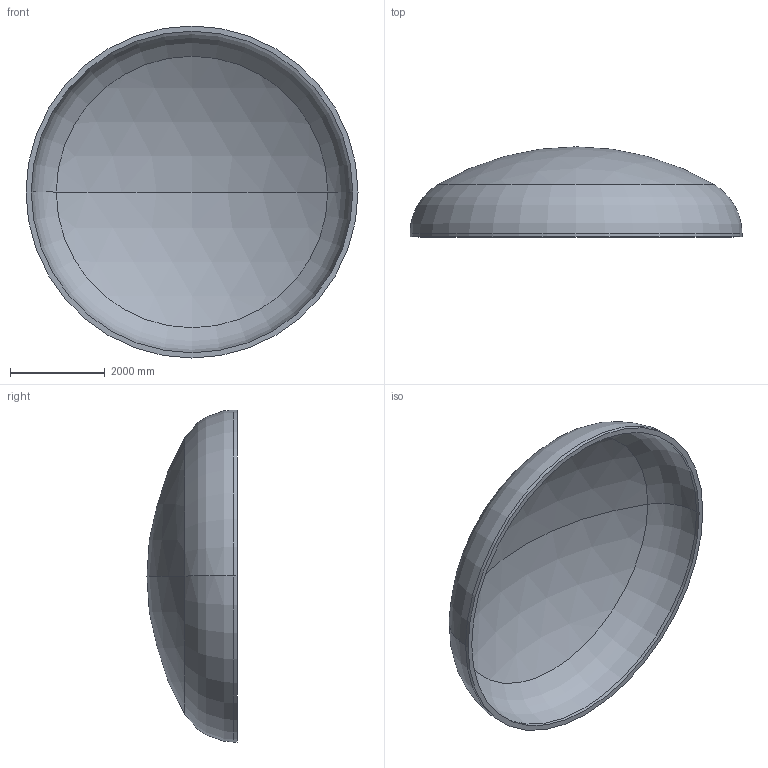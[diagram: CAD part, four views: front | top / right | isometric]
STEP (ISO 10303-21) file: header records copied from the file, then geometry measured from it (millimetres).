
FILE_DESCRIPTION (( 'STEP AP203' ), '1' );
FILE_NAME ('DIN 28013 Korbbogenform_-_Boden DIN 28013 - 7000 x 75 - I - s=110.step', '2016-07-04T10:50:28', ( '' ), ( '' ), 'SwSTEP 2.0', 'SolidWorks 2013', '' );
FILE_SCHEMA (( 'CONFIG_CONTROL_DESIGN' ));
Length unit declared in the file: millimetre
Products named in the file (1): DIN 28013 Korbbogenform_-_Boden DIN 28013 - 7000 x 75 - I - s=110
Bounding box: 7000 x 1899.86 x 7000 mm (x, y, z)
Volume: 5923362588.5 mm3; surface area: 110103815.9 mm2
Topology: 1 solids, 1 shells, 13 faces, 24 edges, 14 vertices
Faces by surface type: torus 4, cylinder 4, sphere 4, plane 1
Entity records: 407 total; most frequent: DIRECTION 72, CARTESIAN_POINT 52, ORIENTED_EDGE 48, AXIS2_PLACEMENT_3D 34, EDGE_CURVE 24, CIRCLE 20, EDGE_LOOP 14, VERTEX_POINT 14
